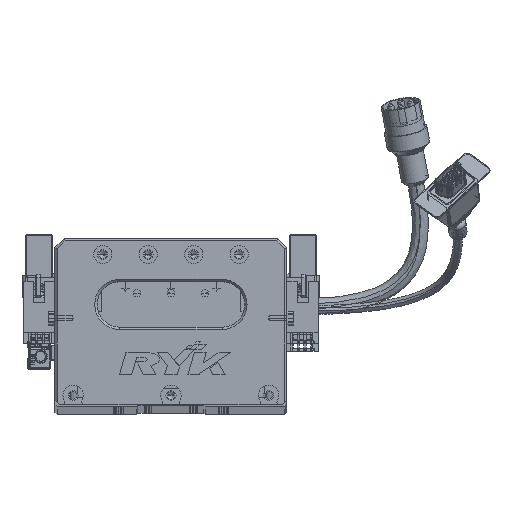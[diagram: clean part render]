
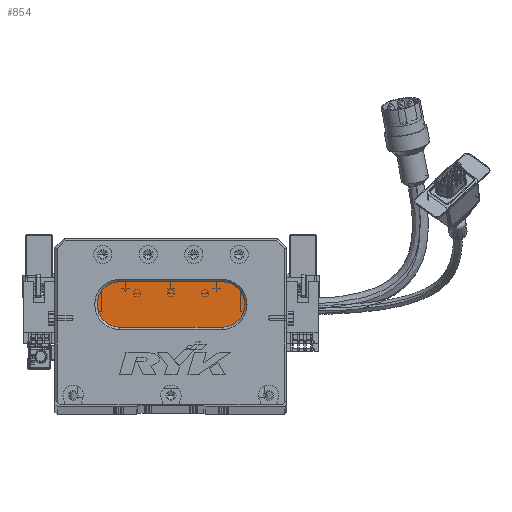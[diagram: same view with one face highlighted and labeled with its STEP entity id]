
A CAD part, top view. The second image highlights one B-rep face of the part: STEP entity #854.
In plain terms, the highlighted planar face has unit normal (0, 0, 1) as drawn and (0, 0, -1) by its records, which use the part's own axes.
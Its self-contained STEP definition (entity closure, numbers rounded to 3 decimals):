
#854 = ADVANCED_FACE ( 'NONE', ( #56501 ), #41132, .T. ) ;
#2529 = VERTEX_POINT ( 'NONE', #63877 ) ;
#3992 = DIRECTION ( 'NONE',  ( -1., 0., 0. ) ) ;
#6364 = VERTEX_POINT ( 'NONE', #50144 ) ;
#8974 = ORIENTED_EDGE ( 'NONE', *, *, #63729, .T. ) ;
#9775 = CARTESIAN_POINT ( 'NONE',  ( 28.5, 34., 13. ) ) ;
#10325 = ORIENTED_EDGE ( 'NONE', *, *, #27759, .T. ) ;
#10379 = DIRECTION ( 'NONE',  ( 0., 0., -1. ) ) ;
#10803 = CIRCLE ( 'NONE', #68742, 10. ) ;
#12540 = CARTESIAN_POINT ( 'NONE',  ( 73.5, 54., 13. ) ) ;
#17058 = VERTEX_POINT ( 'NONE', #78527 ) ;
#18266 = VERTEX_POINT ( 'NONE', #22217 ) ;
#18756 = DIRECTION ( 'NONE',  ( 0., 0., -1. ) ) ;
#19812 = AXIS2_PLACEMENT_3D ( 'NONE', #47310, #10379, #53529 ) ;
#21418 = ORIENTED_EDGE ( 'NONE', *, *, #36133, .T. ) ;
#22217 = CARTESIAN_POINT ( 'NONE',  ( 73.5, 54., 13. ) ) ;
#22828 = CARTESIAN_POINT ( 'NONE',  ( 73.5, 44., 13. ) ) ;
#23840 = ORIENTED_EDGE ( 'NONE', *, *, #35408, .T. ) ;
#26881 = DIRECTION ( 'NONE',  ( 1., 0., 0. ) ) ;
#27473 = DIRECTION ( 'NONE',  ( -1., 0., 0. ) ) ;
#27759 = EDGE_CURVE ( 'NONE', #17058, #47042, #42463, .T. ) ;
#31179 = CARTESIAN_POINT ( 'NONE',  ( 28.5, 44., 13. ) ) ;
#35408 = EDGE_CURVE ( 'NONE', #6364, #2529, #10803, .T. ) ;
#36133 = EDGE_CURVE ( 'NONE', #18266, #17058, #75376, .T. ) ;
#36532 = AXIS2_PLACEMENT_3D ( 'NONE', #31179, #18756, #74335 ) ;
#39117 = CIRCLE ( 'NONE', #36532, 10. ) ;
#41132 = PLANE ( 'NONE',  #19812 ) ;
#42463 = LINE ( 'NONE', #58736, #67545 ) ;
#45405 = ORIENTED_EDGE ( 'NONE', *, *, #50877, .T. ) ;
#47042 = VERTEX_POINT ( 'NONE', #9775 ) ;
#47310 = CARTESIAN_POINT ( 'NONE',  ( 73.5, 44., 13. ) ) ;
#50144 = CARTESIAN_POINT ( 'NONE',  ( 18.5, 44., 13. ) ) ;
#50877 = EDGE_CURVE ( 'NONE', #2529, #18266, #77041, .T. ) ;
#53529 = DIRECTION ( 'NONE',  ( -1., 0., 0. ) ) ;
#53536 = DIRECTION ( 'NONE',  ( -1., 0., 0. ) ) ;
#54159 = CARTESIAN_POINT ( 'NONE',  ( 28.5, 44., 13. ) ) ;
#56501 = FACE_OUTER_BOUND ( 'NONE', #59181, .T. ) ;
#57698 = VECTOR ( 'NONE', #26881, 1000. ) ;
#58736 = CARTESIAN_POINT ( 'NONE',  ( 73.5, 34., 13. ) ) ;
#59181 = EDGE_LOOP ( 'NONE', ( #21418, #10325, #8974, #23840, #45405 ) ) ;
#63729 = EDGE_CURVE ( 'NONE', #47042, #6364, #39117, .T. ) ;
#63877 = CARTESIAN_POINT ( 'NONE',  ( 28.5, 54., 13. ) ) ;
#67545 = VECTOR ( 'NONE', #27473, 1000. ) ;
#68742 = AXIS2_PLACEMENT_3D ( 'NONE', #54159, #72239, #3992 ) ;
#72239 = DIRECTION ( 'NONE',  ( 0., 0., -1. ) ) ;
#72412 = DIRECTION ( 'NONE',  ( 0., 0., -1. ) ) ;
#74335 = DIRECTION ( 'NONE',  ( -1., 0., 0. ) ) ;
#75376 = CIRCLE ( 'NONE', #76557, 10. ) ;
#76557 = AXIS2_PLACEMENT_3D ( 'NONE', #22828, #72412, #53536 ) ;
#77041 = LINE ( 'NONE', #12540, #57698 ) ;
#78527 = CARTESIAN_POINT ( 'NONE',  ( 73.5, 34., 13. ) ) ;
